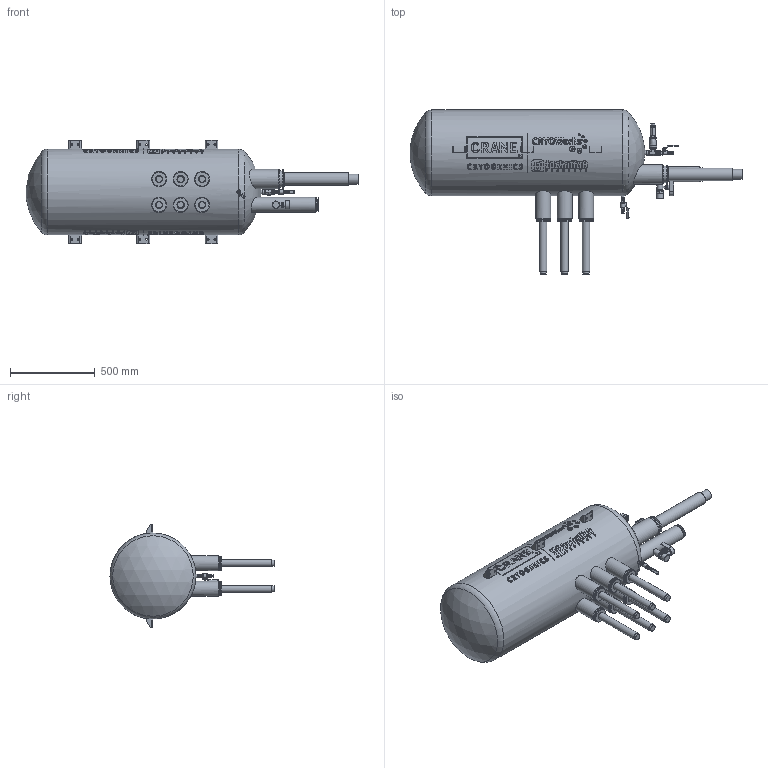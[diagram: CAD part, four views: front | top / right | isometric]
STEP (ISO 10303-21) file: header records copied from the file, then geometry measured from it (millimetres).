
FILE_DESCRIPTION (( 'STEP AP203' ), '1' );
FILE_NAME ('CA01729 CryoWorks High Flow Phase Separator 6 Outlet REV E.STEP', '2026-02-06T22:02:33', ( '' ), ( '' ), 'SwSTEP 2.0', 'SolidWorks 2023', '' );
FILE_SCHEMA (( 'CONFIG_CONTROL_DESIGN' ));
Length unit declared in the file: inch
Products named in the file (1): CA01729 CryoWorks High Flow Phase Separator 6 Outlet REV E
Bounding box: 1962.66 x 969.96 x 611.06 mm (x, y, z)
Volume: 275340690.5 mm3; surface area: 3424860.7 mm2
Topology: 1 solids, 13 shells, 2529 faces, 6387 edges, 4108 vertices
Faces by surface type: plane 1181, cylinder 653, cone 454, bspline 202, torus 27, sphere 12
Full cylindrical faces by diameter (mm): 4.66 x2, 4.75 x2, 4.775 x1, 5.105 x2, 5.527 x14, 5.546 x2, 6.221 x14, 6.272 x4, 6.35 x4, 6.362 x2, 7.112 x1, 7.183 x2, 7.976 x2, 9.188 x2, 9.246 x3, 9.257 x2, 9.525 x12, 9.58 x2, 9.842 x2, 10.262 x1, 10.635 x2, 11.1 x1, 11.112 x6, 11.333 x2, 11.879 x2, 12.494 x2, 12.508 x2, 12.7 x1, 13.494 x2, 14.267 x2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
Entity records: 176377 total; most frequent: CARTESIAN_POINT 122197, ORIENTED_EDGE 11618, DIRECTION 9879, EDGE_CURVE 5809, VERTEX_POINT 3936, AXIS2_PLACEMENT_3D 3759, EDGE_LOOP 3243, FACE_OUTER_BOUND 2735
